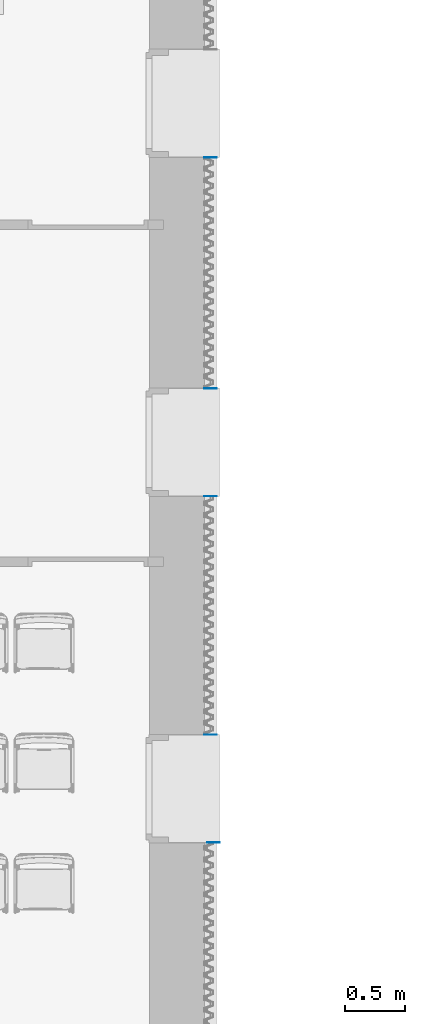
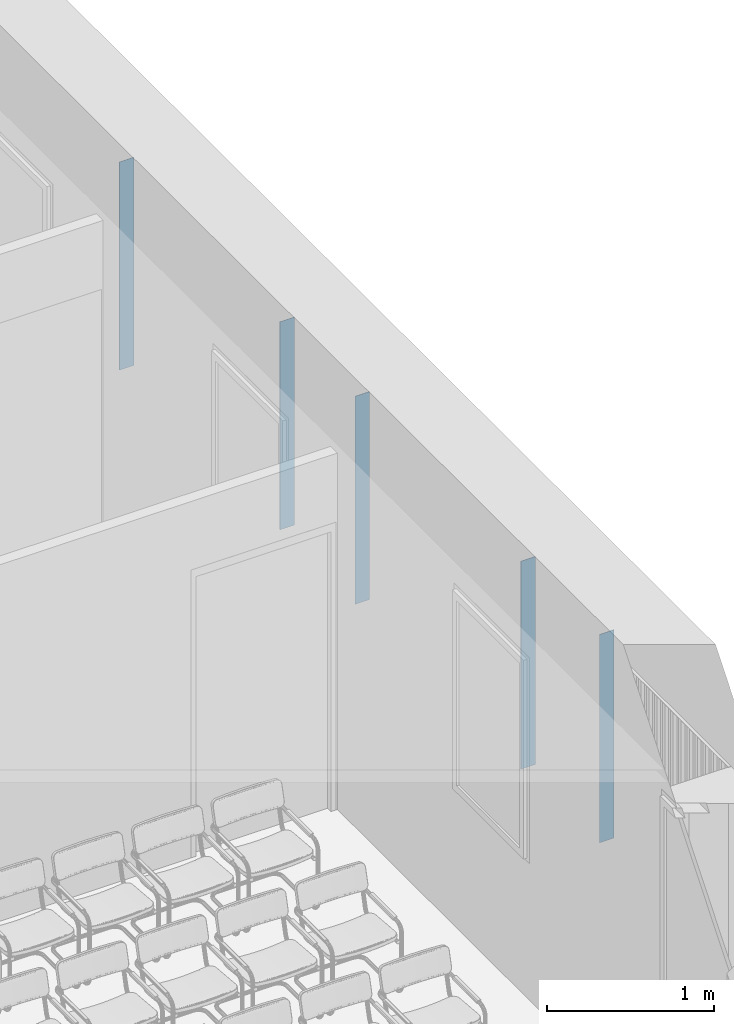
# One storey, part 4 of 91: 5 columns.
"""IFC2X3 building model written with IfcOpenShell, lengths in metres."""

from ifc_helpers import new_model, entity, si_unit, converted_unit, derived_unit, money_unit, direction, frame, origin_with_axes, origin_2d_with_axis, place, context, subcontext, project, spatial, rectangle, extrude, material, type_object, element, save


model = new_model("IFC2X3")

# Units and contexts
model_context = context("Model", 3, precision=1e-05, world=origin_with_axes(), true_north=direction((0.0, 1.0)))
body_context = subcontext(model_context, "Body", "Model", "MODEL_VIEW")
ifc_project = project(units=[si_unit("LENGTHUNIT", "METRE"), si_unit("AREAUNIT", "SQUARE_METRE"), si_unit("VOLUMEUNIT", "CUBIC_METRE"), converted_unit("PLANEANGLEUNIT", "DEGREE", entity("IfcPlaneAngleMeasure", 0.0174532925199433), si_unit("PLANEANGLEUNIT", "RADIAN"), dimensions=[0, 0, 0, 0, 0, 0, 0]), money_unit("EUR"), converted_unit("TIMEUNIT", "Year", entity("IfcTimeMeasure", 31557600.0), si_unit("TIMEUNIT", "SECOND"), dimensions=[0, 0, 1, 0, 0, 0, 0]), si_unit("MASSUNIT", "GRAM", prefix="KILO"), si_unit("THERMODYNAMICTEMPERATUREUNIT", "DEGREE_CELSIUS"), si_unit("LUMINOUSINTENSITYUNIT", "LUMEN"), si_unit("ENERGYUNIT", "JOULE", prefix="MEGA"), derived_unit("THERMALCONDUCTANCEUNIT", [(si_unit("POWERUNIT", "WATT"), 1), (si_unit("LENGTHUNIT", "METRE"), -1), (si_unit("THERMODYNAMICTEMPERATUREUNIT", "KELVIN"), -1)]), derived_unit("SPECIFICHEATCAPACITYUNIT", [(si_unit("ENERGYUNIT", "JOULE"), 1), (si_unit("MASSUNIT", "GRAM", prefix="KILO"), -1), (si_unit("THERMODYNAMICTEMPERATUREUNIT", "KELVIN"), -1)]), derived_unit("MASSDENSITYUNIT", [(si_unit("MASSUNIT", "GRAM", prefix="KILO"), 1), (si_unit("VOLUMEUNIT", "CUBIC_METRE"), -1)])], contexts=[model_context])

# Site, building, storey
site_placement = place(None, origin_with_axes())
site = spatial("IfcSite", under=ifc_project, at=site_placement, Name="Site", CompositionType="ELEMENT")
building_placement = place(site_placement, origin_with_axes())
building = spatial("IfcBuilding", under=site, at=building_placement, Name="Bâtiment", CompositionType="ELEMENT")
storey_placement = place(building_placement, origin_with_axes())
storey = spatial("IfcBuildingStorey", under=building, at=storey_placement, Name="RDC", CompositionType="ELEMENT", Elevation=0.0)

# Columns
ifc_material = material(Name="Aluminium")
column_type = type_object("IfcColumnType", Name="Aluminium 100 x 3", PredefinedType="NOTDEFINED")
for number, where, z_axis, x_axis in (
    (1, (60.30800000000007, -14.99306213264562, 0.9821266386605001), (0.0, 0.0, 1.0), (-1.0, 0.0, 0.0)),
    (2, (60.30800000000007, -19.79372254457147, 0.9821266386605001), (0.0, 0.0, 1.0), (-1.0, 0.0, 0.0)),
):
    element("IfcColumn", number, at=place(storey_placement, frame(where, z_axis=z_axis, x_axis=x_axis)), inside=storey, type_object=column_type, material=ifc_material, Name="PotB-005", context=body_context, shape_type="SweptSolid", body=[
        extrude(rectangle(XDim=0.1, YDim=0.003, at=origin_2d_with_axis()), origin_with_axes(), (0.0, 0.0, 1.0), 1.5178733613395),
    ])
column_placement = place(storey_placement, frame((60.33299999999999, -20.69072254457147, 0.9806266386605), z_axis=(0.0, 0.0, 1.0), x_axis=(1.0, 0.0, 0.0)))
element("IfcColumn", 3, at=column_placement, inside=storey, type_object=column_type, material=ifc_material, Name="PotB-005", context=body_context, shape_type="SweptSolid", body=[
    extrude(rectangle(XDim=0.1, YDim=0.003, at=origin_2d_with_axis()), frame((0.0, 0.0, 0.0), z_axis=(0.0, 0.0, -1.0), x_axis=(-1.0, 0.0, 0.0)), (0.0, 0.0, -1.0), 1.5193733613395),
])
for number, where, z_axis, x_axis in (
    (4, (60.30800000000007, -16.91372254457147, 0.9821266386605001), (0.0, 0.0, 1.0), (-1.0, 0.0, 0.0)),
    (5, (60.30800000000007, -17.81072254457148, 0.9821266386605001), (0.0, 0.0, 1.0), (-1.0, 0.0, 0.0)),
):
    element("IfcColumn", number, at=place(storey_placement, frame(where, z_axis=z_axis, x_axis=x_axis)), inside=storey, type_object=column_type, material=ifc_material, Name="PotB-005", context=body_context, shape_type="SweptSolid", body=[
        extrude(rectangle(XDim=0.1, YDim=0.003, at=origin_2d_with_axis()), origin_with_axes(), (0.0, 0.0, 1.0), 1.5178733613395),
    ])

save(model, "model.ifc")
